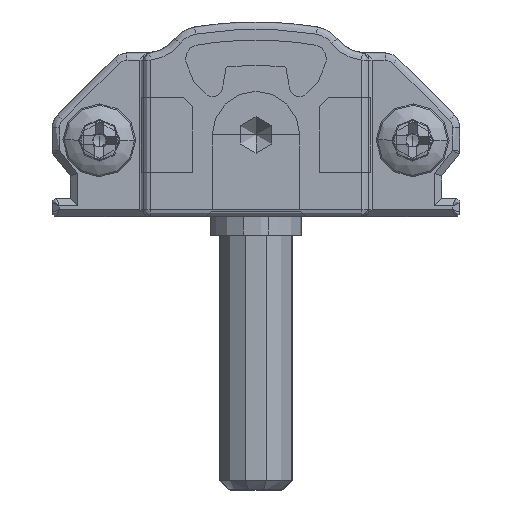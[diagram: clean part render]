
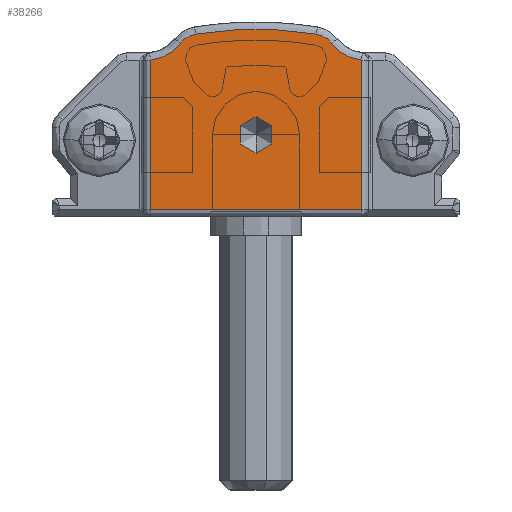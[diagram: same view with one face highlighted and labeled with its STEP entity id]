
A CAD part, front view. The second image highlights one B-rep face of the part: STEP entity #38266.
In plain terms, the highlighted planar face has unit normal (0, -1, 0).
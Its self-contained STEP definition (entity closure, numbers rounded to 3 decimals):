
#610 = EDGE_CURVE ( 'NONE', #13955, #19547, #30130, .T. ) ;
#786 = DIRECTION ( 'NONE',  ( 0., 0., -1. ) ) ;
#1299 = AXIS2_PLACEMENT_3D ( 'NONE', #6282, #23646, #27690 ) ;
#1391 = AXIS2_PLACEMENT_3D ( 'NONE', #24484, #22112, #29493 ) ;
#2274 = DIRECTION ( 'NONE',  ( 0., 0., -1. ) ) ;
#3065 = ORIENTED_EDGE ( 'NONE', *, *, #12365, .T. ) ;
#3300 = VERTEX_POINT ( 'NONE', #38766 ) ;
#3560 = VERTEX_POINT ( 'NONE', #37988 ) ;
#4170 = FACE_BOUND ( 'NONE', #6473, .T. ) ;
#4977 = ORIENTED_EDGE ( 'NONE', *, *, #20131, .T. ) ;
#5429 = DIRECTION ( 'NONE',  ( 0., 0., -1. ) ) ;
#5867 = DIRECTION ( 'NONE',  ( 0., -1., 0. ) ) ;
#5895 = ORIENTED_EDGE ( 'NONE', *, *, #25417, .T. ) ;
#5979 = CARTESIAN_POINT ( 'NONE',  ( 17., -15., 0.4 ) ) ;
#6245 = EDGE_CURVE ( 'NONE', #3560, #29475, #17271, .T. ) ;
#6282 = CARTESIAN_POINT ( 'NONE',  ( 11.2, -15., -10.376 ) ) ;
#6473 = EDGE_LOOP ( 'NONE', ( #28239, #32086 ) ) ;
#7332 = EDGE_CURVE ( 'NONE', #29475, #3300, #23705, .T. ) ;
#7642 = DIRECTION ( 'NONE',  ( 0., -1., 0. ) ) ;
#7766 = EDGE_CURVE ( 'NONE', #3300, #15402, #29604, .T. ) ;
#8523 = CARTESIAN_POINT ( 'NONE',  ( 11.2, -15., 4.5 ) ) ;
#8929 = CARTESIAN_POINT ( 'NONE',  ( 5.4, -15., 8.612 ) ) ;
#8946 = VECTOR ( 'NONE', #11045, 1000. ) ;
#9508 = AXIS2_PLACEMENT_3D ( 'NONE', #38204, #5867, #13237 ) ;
#10817 = EDGE_CURVE ( 'NONE', #43288, #46615, #37372, .T. ) ;
#10917 = VERTEX_POINT ( 'NONE', #27808 ) ;
#11045 = DIRECTION ( 'NONE',  ( 1., 0., 0. ) ) ;
#11675 = CARTESIAN_POINT ( 'NONE',  ( 8.1, -15., 8.75 ) ) ;
#11919 = AXIS2_PLACEMENT_3D ( 'NONE', #11675, #7642, #786 ) ;
#12042 = AXIS2_PLACEMENT_3D ( 'NONE', #42123, #30797, #2274 ) ;
#12365 = EDGE_CURVE ( 'NONE', #19547, #3560, #32447, .T. ) ;
#12552 = DIRECTION ( 'NONE',  ( 0., 0., -1. ) ) ;
#13023 = ORIENTED_EDGE ( 'NONE', *, *, #7766, .T. ) ;
#13237 = DIRECTION ( 'NONE',  ( 0., 0., -1. ) ) ;
#13955 = VERTEX_POINT ( 'NONE', #43486 ) ;
#14014 = ORIENTED_EDGE ( 'NONE', *, *, #610, .T. ) ;
#15402 = VERTEX_POINT ( 'NONE', #5979 ) ;
#16185 = CARTESIAN_POINT ( 'NONE',  ( 11.2, -15., 3.5 ) ) ;
#16872 = AXIS2_PLACEMENT_3D ( 'NONE', #35925, #46825, #28821 ) ;
#17010 = DIRECTION ( 'NONE',  ( 0., 0., 1. ) ) ;
#17271 = CIRCLE ( 'NONE', #1391, 2.4 ) ;
#17473 = CARTESIAN_POINT ( 'NONE',  ( 17., -15., 8.612 ) ) ;
#17990 = ORIENTED_EDGE ( 'NONE', *, *, #7332, .T. ) ;
#18258 = EDGE_CURVE ( 'NONE', #46615, #43288, #37517, .T. ) ;
#18657 = PLANE ( 'NONE',  #12042 ) ;
#18851 = CARTESIAN_POINT ( 'NONE',  ( 17., -15., 0.4 ) ) ;
#19144 = VERTEX_POINT ( 'NONE', #41779 ) ;
#19547 = VERTEX_POINT ( 'NONE', #34314 ) ;
#20131 = EDGE_CURVE ( 'NONE', #19144, #10917, #40082, .T. ) ;
#20489 = EDGE_LOOP ( 'NONE', ( #31961, #4977, #5895, #14014, #3065, #24412, #17990, #13023 ) ) ;
#20849 = AXIS2_PLACEMENT_3D ( 'NONE', #8523, #23489, #5429 ) ;
#21069 = LINE ( 'NONE', #17473, #23548 ) ;
#22112 = DIRECTION ( 'NONE',  ( 0., 1., 0. ) ) ;
#23489 = DIRECTION ( 'NONE',  ( 0., -1., 0. ) ) ;
#23548 = VECTOR ( 'NONE', #17010, 1000. ) ;
#23646 = DIRECTION ( 'NONE',  ( 0., -1., 0. ) ) ;
#23705 = LINE ( 'NONE', #38205, #43035 ) ;
#24412 = ORIENTED_EDGE ( 'NONE', *, *, #6245, .T. ) ;
#24484 = CARTESIAN_POINT ( 'NONE',  ( 5.162, -15., 11. ) ) ;
#25417 = EDGE_CURVE ( 'NONE', #10917, #13955, #25483, .T. ) ;
#25483 = CIRCLE ( 'NONE', #9508, 1.3 ) ;
#27482 = CARTESIAN_POINT ( 'NONE',  ( 17.238, -15., 11. ) ) ;
#27690 = DIRECTION ( 'NONE',  ( 0., 0., -1. ) ) ;
#27808 = CARTESIAN_POINT ( 'NONE',  ( 15.332, -15., 9.541 ) ) ;
#28239 = ORIENTED_EDGE ( 'NONE', *, *, #18258, .F. ) ;
#28821 = DIRECTION ( 'NONE',  ( 0., 0., -1. ) ) ;
#29475 = VERTEX_POINT ( 'NONE', #8929 ) ;
#29493 = DIRECTION ( 'NONE',  ( 0., 0., -1. ) ) ;
#29604 = LINE ( 'NONE', #18851, #8946 ) ;
#30130 = CIRCLE ( 'NONE', #1299, 20.676 ) ;
#30797 = DIRECTION ( 'NONE',  ( 0., -1., 0. ) ) ;
#30963 = EDGE_CURVE ( 'NONE', #15402, #19144, #21069, .T. ) ;
#31961 = ORIENTED_EDGE ( 'NONE', *, *, #30963, .T. ) ;
#32086 = ORIENTED_EDGE ( 'NONE', *, *, #10817, .F. ) ;
#32447 = CIRCLE ( 'NONE', #11919, 1.3 ) ;
#34150 = DIRECTION ( 'NONE',  ( 0., 1., 0. ) ) ;
#34314 = CARTESIAN_POINT ( 'NONE',  ( 7.892, -15., 10.034 ) ) ;
#35925 = CARTESIAN_POINT ( 'NONE',  ( 11.2, -15., 4.5 ) ) ;
#36718 = FACE_OUTER_BOUND ( 'NONE', #20489, .T. ) ;
#37372 = CIRCLE ( 'NONE', #16872, 1. ) ;
#37517 = CIRCLE ( 'NONE', #20849, 1. ) ;
#37988 = CARTESIAN_POINT ( 'NONE',  ( 7.068, -15., 9.541 ) ) ;
#38155 = DIRECTION ( 'NONE',  ( 0., 0., -1. ) ) ;
#38204 = CARTESIAN_POINT ( 'NONE',  ( 14.3, -15., 8.75 ) ) ;
#38205 = CARTESIAN_POINT ( 'NONE',  ( 5.4, -15., 0.4 ) ) ;
#38266 = ADVANCED_FACE ( 'NONE', ( #36718, #4170 ), #18657, .T. ) ;
#38766 = CARTESIAN_POINT ( 'NONE',  ( 5.4, -15., 0.4 ) ) ;
#39786 = CARTESIAN_POINT ( 'NONE',  ( 11.2, -15., 5.5 ) ) ;
#40048 = AXIS2_PLACEMENT_3D ( 'NONE', #27482, #34150, #38155 ) ;
#40082 = CIRCLE ( 'NONE', #40048, 2.4 ) ;
#41779 = CARTESIAN_POINT ( 'NONE',  ( 17., -15., 8.612 ) ) ;
#42123 = CARTESIAN_POINT ( 'NONE',  ( 22.15, -15., 3.606 ) ) ;
#43035 = VECTOR ( 'NONE', #12552, 1000. ) ;
#43288 = VERTEX_POINT ( 'NONE', #39786 ) ;
#43486 = CARTESIAN_POINT ( 'NONE',  ( 14.508, -15., 10.034 ) ) ;
#46615 = VERTEX_POINT ( 'NONE', #16185 ) ;
#46825 = DIRECTION ( 'NONE',  ( 0., -1., 0. ) ) ;
